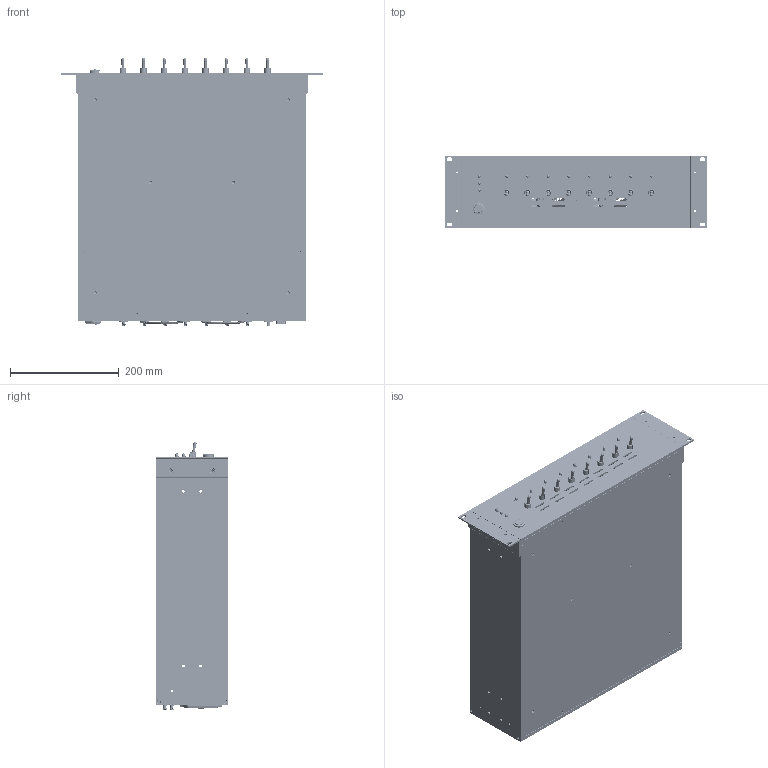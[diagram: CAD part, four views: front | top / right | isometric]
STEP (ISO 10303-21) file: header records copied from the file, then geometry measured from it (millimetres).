
FILE_DESCRIPTION (( 'STEP AP214' ), '1' );
FILE_NAME ('PA-LPN-40-50M500M-5-35DBM-SFF-X8.STEP', '2026-03-11T19:50:06', ( '' ), ( '' ), 'SwSTEP 2.0', 'SolidWorks 2025', '' );
FILE_SCHEMA (( 'AUTOMOTIVE_DESIGN' ));
Length unit declared in the file: inch
Products named in the file (1): PA-LPN-40-50M500M-5-35DBM-SFF-X8
Bounding box: 482.61 x 132.6 x 494.37 mm (x, y, z)
Volume: 1745967 mm3; surface area: 1741133 mm2
Topology: 270 solids, 296 shells, 14545 faces, 37750 edges, 24025 vertices
Faces by surface type: plane 5449, cylinder 4601, bspline 1474, torus 1206, cone 1149, sphere 666
Full cylindrical faces by diameter (mm): 0.914 x16, 1.7 x16, 1.9 x1, 1.981 x3, 2 x16, 2.184 x80, 2.5 x16, 2.845 x16, 3 x16, 3.048 x5, 3.251 x2, 3.264 x6, 3.429 x4, 3.505 x8, 3.81 x16, 3.988 x12, 4 x16, 4.039 x8, 4.293 x8, 4.3 x8, 4.5 x16, 4.572 x16, 4.775 x12, 4.826 x4, 5 x4, 5.283 x80, 5.4 x8, 5.429 x16, 6.045 x8, 6.35 x24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
Entity records: 678179 total; most frequent: CARTESIAN_POINT 224314, ORIENTED_EDGE 71444, DIRECTION 66203, EDGE_CURVE 35722, AXIS2_PLACEMENT_3D 24737, VERTEX_POINT 23552, EDGE_LOOP 17256, LINE 16729
